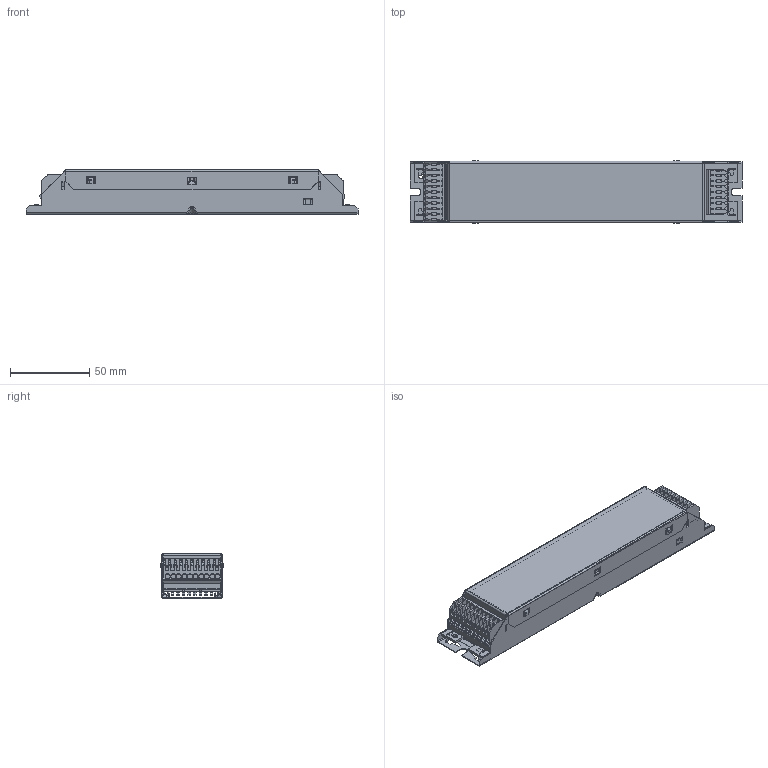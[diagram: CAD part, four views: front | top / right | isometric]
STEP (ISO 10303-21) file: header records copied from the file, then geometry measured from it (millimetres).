
FILE_DESCRIPTION((''),'2;1');
FILE_NAME('15007856Z_EM-BASIC-LP-209Z','2013-06-27T',('juergen.hrach'),(''),'PRO/ENGINEER BY PARAMETRIC TECHNOLOGY CORPORATION, 2012420','PRO/ENGINEER BY PARAMETRIC TECHNOLOGY CORPORATION, 2012420','');
FILE_SCHEMA(('AUTOMOTIVE_DESIGN { 1 2 10303 214 0 1 1 1 }'));
Products named in the file (1): 15007856Z_EM-BASIC-LP-209Z
Bounding box: 209 x 39.6 x 28 mm (x, y, z)
Volume: 14643.4 mm3; surface area: 123849.4 mm2
Topology: 2 solids, 5 shells, 1691 faces, 4439 edges, 2726 vertices
Faces by surface type: bspline 1277, revolution 414
Entity records: 84026 total; most frequent: CARTESIAN_POINT 32625, ORIENTED_EDGE 8758, DIRECTION 5140, PRESENTATION_STYLE_ASSIGNMENT 4536, STYLED_ITEM 4443, CURVE_STYLE 4438, EDGE_CURVE 4438, VECTOR 3300
